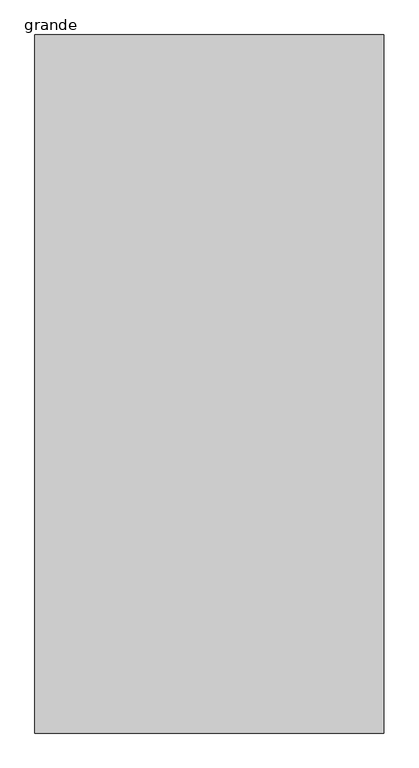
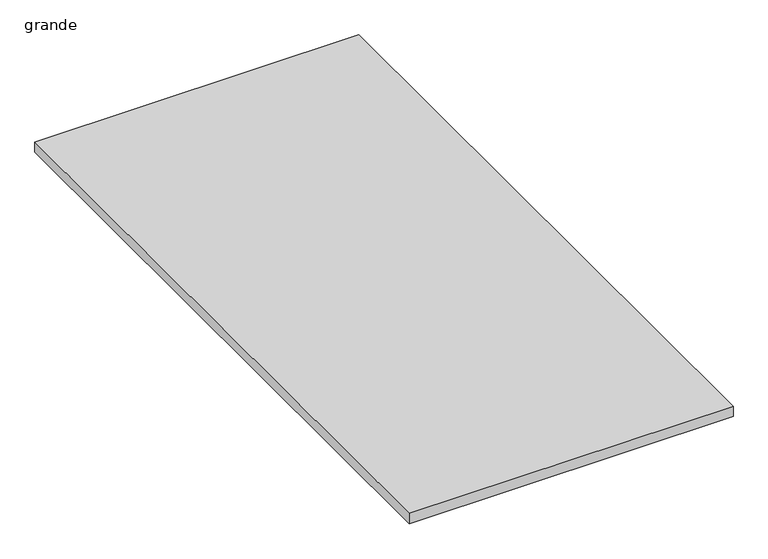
"""IFC4 building model written with IfcOpenShell, lengths in millimetres: proxy geometry, OWA Creaprint : grande."""

from ifc_helpers import new_model, si_unit, origin, origin_with_axes, place, context, project, spatial, polyline, outline, extrude, source, transform, mapped, element, save


def grande_378761da(model_context):
    return source(origin(), model_context, "Body", "SweptSolid", [
        extrude(outline(polyline([(-1033.5, 1200.0), (166.5, 1200.0), (166.5, -1200.0), (-1033.5, -1200.0), (-1033.5, 1200.0)])), origin_with_axes(), (0.0, 0.0, 1.0), 40.0),
    ])


if __name__ == "__main__":
    model = new_model("IFC4")
    model_context = context("Model", 3, world=origin())
    ifc_project = project(units=[si_unit("LENGTHUNIT", "METRE", prefix="MILLI")], contexts=[model_context])
    site = spatial("IfcSite", under=ifc_project)
    building = spatial("IfcBuilding", under=site)
    placement = place(None, origin())
    grande_shape = grande_378761da(model_context)
    element("IfcBuildingElementProxy", 1, Name="OWA Creaprint : grande", ObjectType="OWA Creaprint : grande", at=placement, inside=building, context=model_context, shape_type="MappedRepresentation", body=[
        mapped(grande_shape, transform((0.0, 0.0, 0.0), x_axis=(1.0, 0.0, 0.0), y_axis=(0.0, 1.0, 0.0), z_axis=(0.0, 0.0, 1.0))),
    ])
    save(model, "model.ifc")
